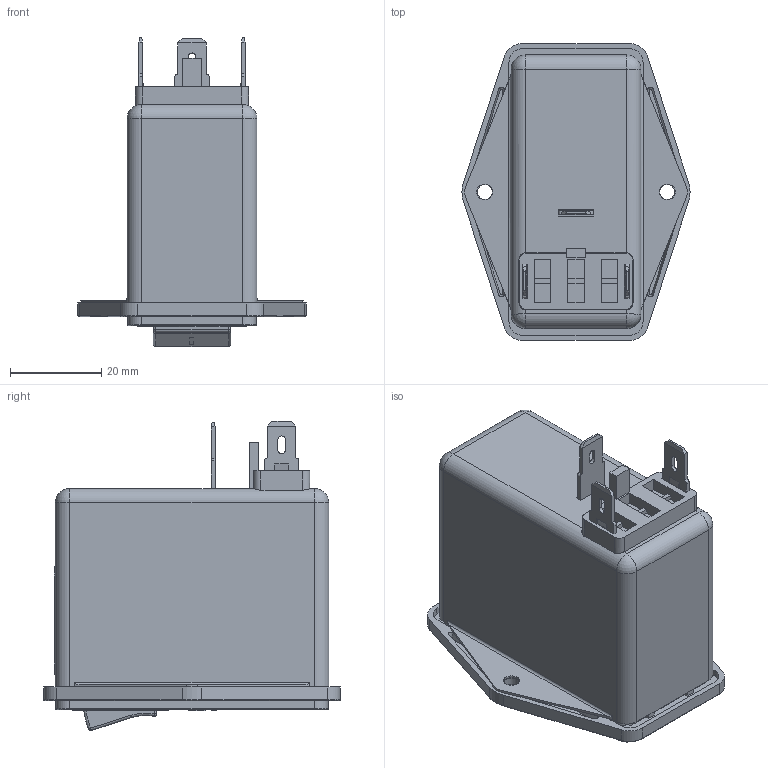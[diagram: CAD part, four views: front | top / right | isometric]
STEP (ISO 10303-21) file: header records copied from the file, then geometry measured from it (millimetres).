
FILE_DESCRIPTION((''),'2;1');
FILE_NAME('D:\_ PRODUCT\FN281-6\_New design for 1fuse\Version_3_update FH_after tel.con_030609\FN283-xx-06_.stp','2012-10-24T09:16:50',('sayan.penton'),(''),'Autodesk Inventor 2010','Autodesk Inventor 2010','');
FILE_SCHEMA(('AUTOMOTIVE_DESIGN { 1 0 10303 214 1 1 1 1 }'));
Length unit declared in the file: millimetre
Products named in the file (1): Part3
Bounding box: 50 x 65 x 67.75 mm (x, y, z)
Volume: 33862.1 mm3; surface area: 45268.4 mm2
Topology: 1 solids, 1 shells, 3142 faces, 9109 edges, 5993 vertices
Faces by surface type: plane 2505, bspline 442, cylinder 161, torus 14, cone 12, sphere 8
Full cylindrical faces by diameter (mm): 0.46 x1, 0.56 x1, 1.2 x2, 1.5 x2, 2.135 x1, 2.55 x1, 2.99 x1, 3 x1, 3.134 x1, 3.3 x2, 3.5 x2
Entity records: 116901 total; most frequent: CARTESIAN_POINT 32944, ORIENTED_EDGE 18160, DIRECTION 14322, EDGE_CURVE 9080, VECTOR 8130, LINE 8130, VERTEX_POINT 5989, EDGE_LOOP 3329
